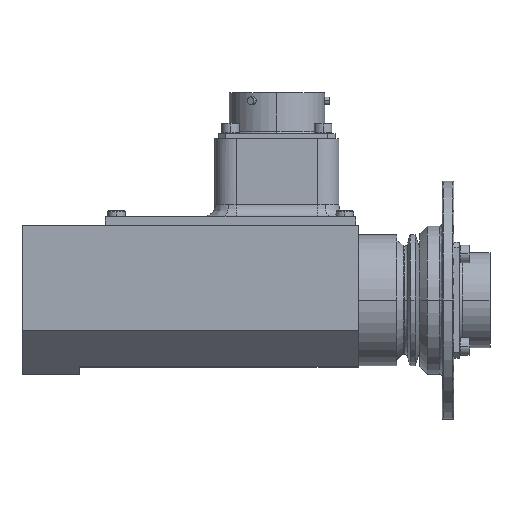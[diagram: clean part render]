
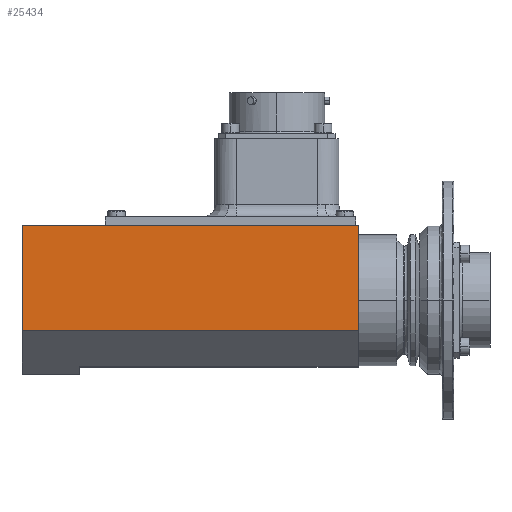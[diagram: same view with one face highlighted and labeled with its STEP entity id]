
A CAD part, top view. The second image highlights one B-rep face of the part: STEP entity #25434.
In plain terms, the highlighted planar face has unit normal (0, 0, 1).
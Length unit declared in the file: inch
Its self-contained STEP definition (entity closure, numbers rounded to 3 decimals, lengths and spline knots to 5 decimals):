
#580 = ORIENTED_EDGE ( 'NONE', *, *, #17610, .T. ) ;
#5104 = LINE ( 'NONE', #24019, #11393 ) ;
#5287 = VECTOR ( 'NONE', #22537, 39.37008 ) ;
#6180 = CARTESIAN_POINT ( 'NONE',  ( 3.524, -0.32102, 0.775 ) ) ;
#6204 = VERTEX_POINT ( 'NONE', #17647 ) ;
#9060 = VECTOR ( 'NONE', #24945, 39.37008 ) ;
#10686 = PLANE ( 'NONE',  #33584 ) ;
#11393 = VECTOR ( 'NONE', #30226, 39.37008 ) ;
#13183 = EDGE_CURVE ( 'NONE', #29929, #6204, #31484, .T. ) ;
#13280 = VERTEX_POINT ( 'NONE', #38456 ) ;
#14041 = DIRECTION ( 'NONE',  ( 0., 1., 0. ) ) ;
#16056 = VECTOR ( 'NONE', #14041, 39.37008 ) ;
#17610 = EDGE_CURVE ( 'NONE', #13280, #29929, #19699, .T. ) ;
#17647 = CARTESIAN_POINT ( 'NONE',  ( 3.524, 0.78287, 0.775 ) ) ;
#18038 = ORIENTED_EDGE ( 'NONE', *, *, #30240, .T. ) ;
#18362 = FACE_OUTER_BOUND ( 'NONE', #30818, .T. ) ;
#18600 = CARTESIAN_POINT ( 'NONE',  ( 3.929, -0.32102, 0.775 ) ) ;
#19699 = LINE ( 'NONE', #18600, #9060 ) ;
#20388 = VERTEX_POINT ( 'NONE', #35409 ) ;
#22537 = DIRECTION ( 'NONE',  ( -1., 0., 0. ) ) ;
#22851 = ORIENTED_EDGE ( 'NONE', *, *, #35803, .T. ) ;
#24019 = CARTESIAN_POINT ( 'NONE',  ( 0., -1.09602, 0.775 ) ) ;
#24945 = DIRECTION ( 'NONE',  ( 1., 0., 0. ) ) ;
#25434 = ADVANCED_FACE ( 'NONE', ( #18362 ), #10686, .F. ) ;
#25786 = CARTESIAN_POINT ( 'NONE',  ( 3.929, 0.78287, 0.775 ) ) ;
#26704 = ORIENTED_EDGE ( 'NONE', *, *, #13183, .T. ) ;
#29929 = VERTEX_POINT ( 'NONE', #6180 ) ;
#30226 = DIRECTION ( 'NONE',  ( 0., -1., 0. ) ) ;
#30240 = EDGE_CURVE ( 'NONE', #20388, #13280, #5104, .T. ) ;
#30818 = EDGE_LOOP ( 'NONE', ( #580, #26704, #22851, #18038 ) ) ;
#31484 = LINE ( 'NONE', #32541, #16056 ) ;
#32541 = CARTESIAN_POINT ( 'NONE',  ( 3.524, -1.09602, 0.775 ) ) ;
#32702 = DIRECTION ( 'NONE',  ( -1., 0., 0. ) ) ;
#33584 = AXIS2_PLACEMENT_3D ( 'NONE', #38355, #35120, #32702 ) ;
#35120 = DIRECTION ( 'NONE',  ( 0., 0., -1. ) ) ;
#35409 = CARTESIAN_POINT ( 'NONE',  ( 0., 0.78287, 0.775 ) ) ;
#35803 = EDGE_CURVE ( 'NONE', #6204, #20388, #37617, .T. ) ;
#37617 = LINE ( 'NONE', #25786, #5287 ) ;
#38355 = CARTESIAN_POINT ( 'NONE',  ( 3.929, 0.775, 0.775 ) ) ;
#38456 = CARTESIAN_POINT ( 'NONE',  ( 0., -0.32102, 0.775 ) ) ;
